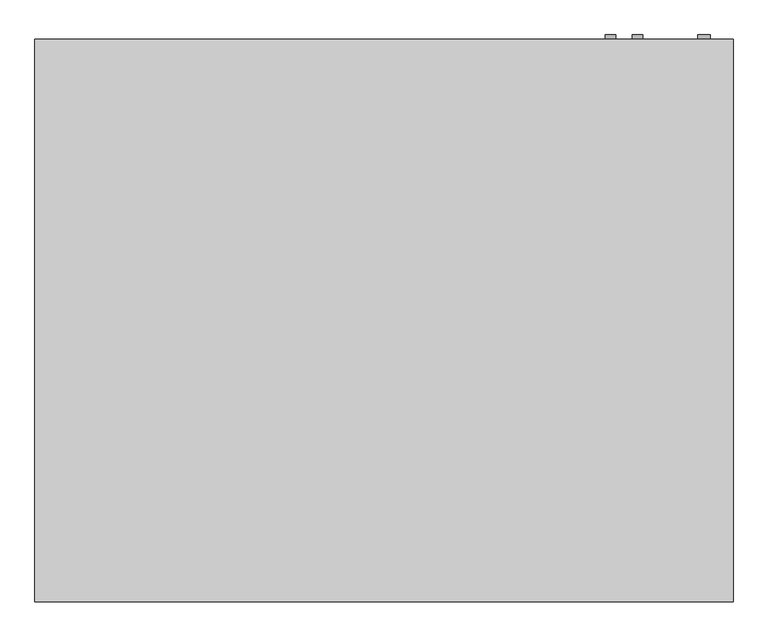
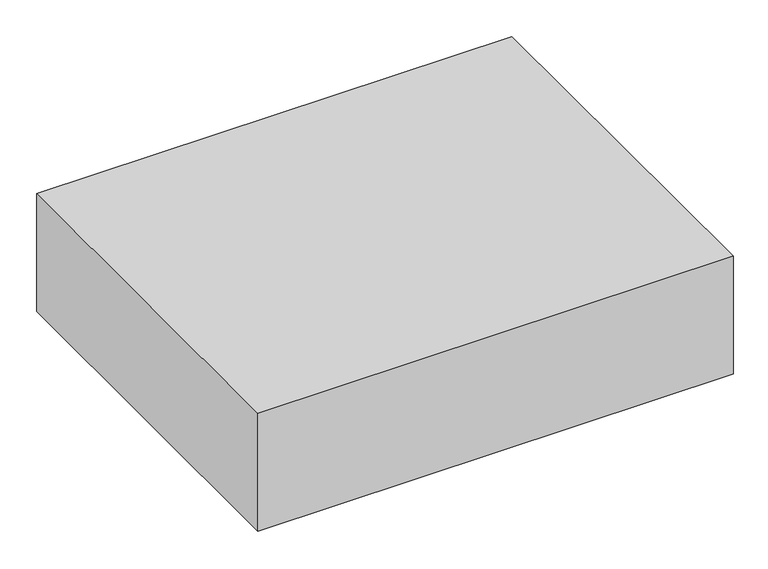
"""IFC4 building model written with IfcOpenShell, lengths in millimetres: proxy geometry, Exposed_Horizontal_Fan_Coil_Unit_-_42CGB_-_CARRIER_-_2-Pipe_Cool-EHeat_BS-BR_RH_2022 : Size 03 - 277v/60Hz/1Ph - 4 Row 3.0kW."""

from ifc_helpers import new_model, si_unit, point, frame, frame_2d, origin, place, context, project, spatial, polyline, circle_curve, trimmed, segment, composite_curve, outline, extrude, source, transform, mapped, element, save


def mechanical_equipment_2356f45e(model_context):
    return source(origin(), model_context, "Body", "SweptSolid", [
        extrude(outline(polyline([(425.45, -439.7375), (425.45, -585.7875), (-120.65, -585.7875), (-120.65, -439.7375), (425.45, -439.7375)])), frame((0.0, 0.0, -285.75), z_axis=(0.0, 0.0, 1.0), x_axis=(1.0, 0.0, 0.0)), (0.0, 0.0, 1.0), 6.35),
        extrude(outline(composite_curve([segment(trimmed(circle_curve(frame_2d((-60.325, 498.475)), 7.9375), [point((-60.325, 506.4125))], [point((-60.325, 490.5375))], False, "CARTESIAN"), True, "CONTINUOUS"), segment(trimmed(circle_curve(frame_2d((-60.325, 498.475)), 7.9375), [point((-60.325, 490.5375))], [point((-60.325, 506.4125))], False, "CARTESIAN"), True, "CONTINUOUS")], self_intersect=False)), frame((0.0, 192.0875, 0.0), z_axis=(0.0, 1.0, 0.0), x_axis=(0.0, 0.0, 1.0)), (0.0, 0.0, 1.0), 6.35),
        extrude(outline(composite_curve([segment(trimmed(circle_curve(frame_2d((-95.25, 539.75)), 7.9375), [point((-95.25, 547.6875))], [point((-95.25, 531.8125))], False, "CARTESIAN"), True, "CONTINUOUS"), segment(trimmed(circle_curve(frame_2d((-95.25, 539.75)), 7.9375), [point((-95.25, 531.8125))], [point((-95.25, 547.6875))], False, "CARTESIAN"), True, "CONTINUOUS")], self_intersect=False)), frame((0.0, 192.0875, 0.0), z_axis=(0.0, 1.0, 0.0), x_axis=(0.0, 0.0, 1.0)), (0.0, 0.0, 1.0), 6.35),
        extrude(outline(composite_curve([segment(trimmed(circle_curve(frame_2d((-260.35, 641.35)), 9.525), [point((-260.35, 650.875))], [point((-260.35, 631.825))], False, "CARTESIAN"), True, "CONTINUOUS"), segment(trimmed(circle_curve(frame_2d((-260.35, 641.35)), 9.525), [point((-260.35, 631.825))], [point((-260.35, 650.875))], False, "CARTESIAN"), True, "CONTINUOUS")], self_intersect=False)), frame((0.0, 192.0875, 0.0), z_axis=(0.0, 1.0, 0.0), x_axis=(0.0, 0.0, 1.0)), (0.0, 0.0, 1.0), 6.35),
        extrude(outline(polyline([(-381.0, 192.0875), (685.8, 192.0875), (685.8, -668.3375), (-381.0, -668.3375), (-381.0, 192.0875)])), frame((0.0, 0.0, -279.4), z_axis=(0.0, 0.0, 1.0), x_axis=(1.0, 0.0, 0.0)), (0.0, 0.0, 1.0), 279.4),
        extrude(outline(polyline([(508.0, 115.8875), (508.0, -138.1125), (-203.2, -138.1125), (-203.2, 115.8875), (508.0, 115.8875)])), frame((0.0, 0.0, -285.75), z_axis=(0.0, 0.0, 1.0), x_axis=(1.0, 0.0, 0.0)), (0.0, 0.0, 1.0), 6.35),
    ])


if __name__ == "__main__":
    model = new_model("IFC4")
    model_context = context("Model", 3, world=origin())
    ifc_project = project(units=[si_unit("LENGTHUNIT", "METRE", prefix="MILLI")], contexts=[model_context])
    site = spatial("IfcSite", under=ifc_project)
    building = spatial("IfcBuilding", under=site)
    placement = place(None, origin())
    mechanical_equipment_shape = mechanical_equipment_2356f45e(model_context)
    element("IfcBuildingElementProxy", 1, Name="Exposed_Horizontal_Fan_Coil_Unit_-_42CGB_-_CARRIER_-_2-Pipe_Cool-EHeat_BS-BR_RH_2022 : Size 03 - 277v/60Hz/1Ph - 4 Row 3.0kW", ObjectType="Exposed_Horizontal_Fan_Coil_Unit_-_42CGB_-_CARRIER_-_2-Pipe_Cool-EHeat_BS-BR_RH_2022 : Size 03 - 277v/60Hz/1Ph - 4 Row 3.0kW", at=placement, inside=building, context=model_context, shape_type="MappedRepresentation", body=[
        mapped(mechanical_equipment_shape, transform((0.0, 0.0, 0.0), x_axis=(1.0, 0.0, 0.0), y_axis=(0.0, 1.0, 0.0), z_axis=(0.0, 0.0, 1.0))),
    ])
    save(model, "model.ifc")
